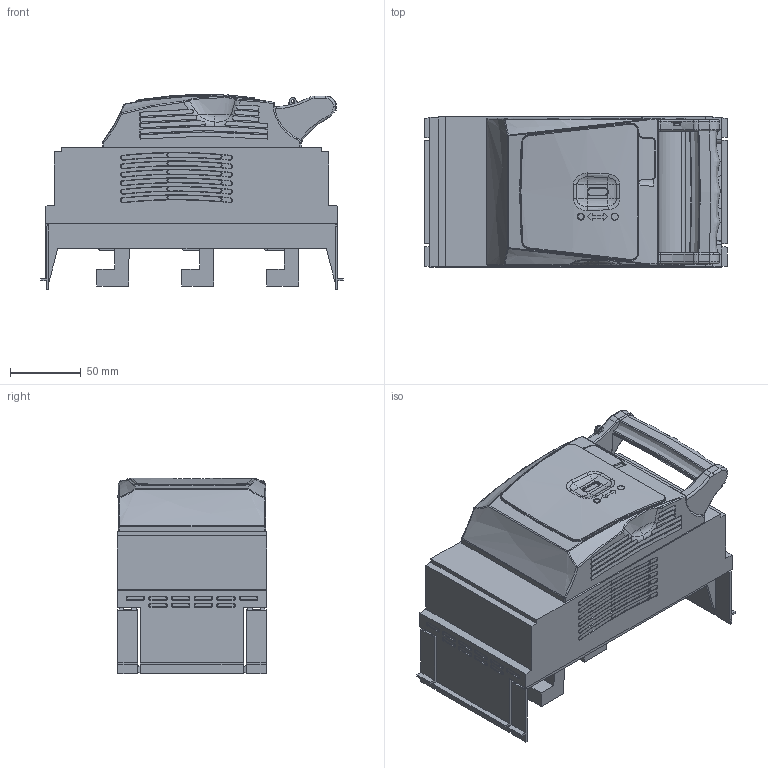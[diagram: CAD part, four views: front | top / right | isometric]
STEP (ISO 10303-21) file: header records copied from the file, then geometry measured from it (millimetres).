
FILE_DESCRIPTION(/* description */ (''),/* implementation_level */ '2;1');
FILE_NAME(/* name */ '335040_SECC 3P BS NH00 PLETINA 60MM.stp',/* time_stamp */ '2021-11-05T14:33:57+01:00',/* author */ (''),/* organization */ (''),/* preprocessor_version */ 'ST-DEVELOPER v18.1',/* originating_system */ 'SIEMENS PLM Software NX 1992',/* authorisation */ '');
FILE_SCHEMA (('AUTOMOTIVE_DESIGN { 1 0 10303 214 3 1 1 1 }'));
Length unit declared in the file: millimetre
Products named in the file (1): 335040_SECC 3P BS NH00 PLETINA 60MM
Bounding box: 213.94 x 106 x 138.36 mm (x, y, z)
Volume: 1726690.9 mm3; surface area: 157166.1 mm2
Topology: 1 solids, 4 shells, 976 faces, 2629 edges, 1649 vertices
Faces by surface type: plane 386, torus 192, cylinder 165, bspline 120, cone 75, sphere 27, revolution 6, extrusion 5
Full cylindrical faces by diameter (mm): 2.2 x1, 4 x1, 4.997 x1, 5 x1, 8.5 x3
Entity records: 38859 total; most frequent: CARTESIAN_POINT 16152, ORIENTED_EDGE 5138, DIRECTION 4177, EDGE_CURVE 2569, VERTEX_POINT 1645, AXIS2_PLACEMENT_3D 1544, VECTOR 1083, LINE 1078
